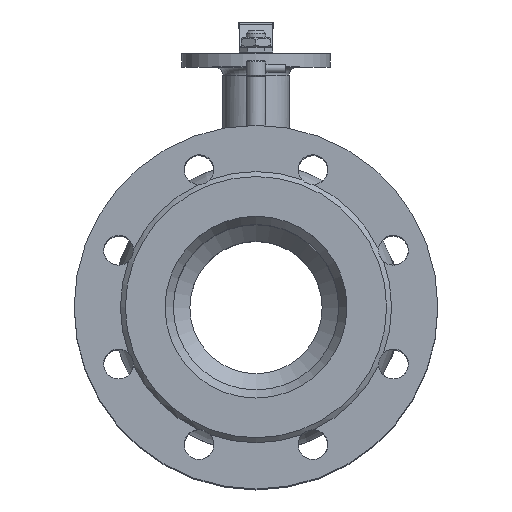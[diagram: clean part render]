
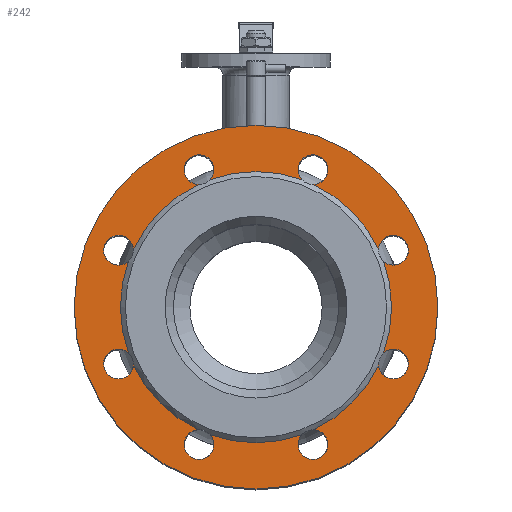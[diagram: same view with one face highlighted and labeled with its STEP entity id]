
A CAD part, top view. The second image highlights one B-rep face of the part: STEP entity #242.
In plain terms, the highlighted planar face has unit normal (0, 0, 1).
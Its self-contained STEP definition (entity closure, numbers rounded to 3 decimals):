
#242=ADVANCED_FACE('',(#2282,#2284),#2286,.F.);
#2282=FACE_BOUND('',#2283,.T.);
#2283=EDGE_LOOP('',(#28970));
#2284=FACE_BOUND('',#2285,.T.);
#2285=EDGE_LOOP('',(#28971,#28972,#28973,#28974,#28975,#28976,#28977,#28978,#28979,
#28980,#28981,#28982,#28983,#28984,#28985,#28986));
#2286=PLANE('',#2287);
#2287=AXIS2_PLACEMENT_3D('',#2288,#2289,#2290);
#2288=CARTESIAN_POINT('',(0.,82.,169.5));
#2289=DIRECTION('',(0.,0.,-1.));
#2290=DIRECTION('',(-1.,0.,0.));
#28970=ORIENTED_EDGE('',*,*,#33954,.T.);
#28971=ORIENTED_EDGE('',*,*,#33955,.F.);
#28972=ORIENTED_EDGE('',*,*,#33885,.F.);
#28973=ORIENTED_EDGE('',*,*,#33956,.F.);
#28974=ORIENTED_EDGE('',*,*,#33883,.F.);
#28975=ORIENTED_EDGE('',*,*,#33957,.F.);
#28976=ORIENTED_EDGE('',*,*,#33881,.F.);
#28977=ORIENTED_EDGE('',*,*,#33958,.F.);
#28978=ORIENTED_EDGE('',*,*,#33879,.F.);
#28979=ORIENTED_EDGE('',*,*,#33959,.F.);
#28980=ORIENTED_EDGE('',*,*,#33877,.F.);
#28981=ORIENTED_EDGE('',*,*,#33960,.F.);
#28982=ORIENTED_EDGE('',*,*,#33875,.F.);
#28983=ORIENTED_EDGE('',*,*,#33961,.F.);
#28984=ORIENTED_EDGE('',*,*,#33873,.F.);
#28985=ORIENTED_EDGE('',*,*,#33962,.F.);
#28986=ORIENTED_EDGE('',*,*,#33871,.F.);
#33871=EDGE_CURVE('',#36144,#36147,#36148,.T.);
#33873=EDGE_CURVE('',#36149,#36151,#36152,.T.);
#33875=EDGE_CURVE('',#36153,#36155,#36156,.T.);
#33877=EDGE_CURVE('',#36157,#36159,#36160,.T.);
#33879=EDGE_CURVE('',#36161,#36163,#36164,.T.);
#33881=EDGE_CURVE('',#36165,#36167,#36168,.T.);
#33883=EDGE_CURVE('',#36169,#36171,#36172,.T.);
#33885=EDGE_CURVE('',#36173,#36145,#36175,.T.);
#33954=EDGE_CURVE('',#36304,#36304,#36305,.T.);
#33955=EDGE_CURVE('',#36145,#36144,#36306,.T.);
#33956=EDGE_CURVE('',#36171,#36173,#36307,.T.);
#33957=EDGE_CURVE('',#36167,#36169,#36308,.T.);
#33958=EDGE_CURVE('',#36163,#36165,#36309,.T.);
#33959=EDGE_CURVE('',#36159,#36161,#36310,.T.);
#33960=EDGE_CURVE('',#36155,#36157,#36311,.T.);
#33961=EDGE_CURVE('',#36151,#36153,#36312,.T.);
#33962=EDGE_CURVE('',#36147,#36149,#36313,.T.);
#36144=VERTEX_POINT('',#52628);
#36145=VERTEX_POINT('',#52629);
#36147=VERTEX_POINT('',#52707);
#36148=CIRCLE('',#52708,82.);
#36149=VERTEX_POINT('',#52712);
#36151=VERTEX_POINT('',#52790);
#36152=CIRCLE('',#52791,82.);
#36153=VERTEX_POINT('',#52795);
#36155=VERTEX_POINT('',#52873);
#36156=CIRCLE('',#52874,82.);
#36157=VERTEX_POINT('',#52878);
#36159=VERTEX_POINT('',#52956);
#36160=CIRCLE('',#52957,82.);
#36161=VERTEX_POINT('',#52961);
#36163=VERTEX_POINT('',#53039);
#36164=CIRCLE('',#53040,82.);
#36165=VERTEX_POINT('',#53044);
#36167=VERTEX_POINT('',#53122);
#36168=CIRCLE('',#53123,82.);
#36169=VERTEX_POINT('',#53127);
#36171=VERTEX_POINT('',#53205);
#36172=CIRCLE('',#53206,82.);
#36173=VERTEX_POINT('',#53210);
#36175=CIRCLE('',#53288,82.);
#36304=VERTEX_POINT('',#54208);
#36305=CIRCLE('',#54209,110.);
#36306=CIRCLE('',#54213,9.);
#36307=CIRCLE('',#54217,9.);
#36308=CIRCLE('',#54221,9.);
#36309=CIRCLE('',#54225,9.);
#36310=CIRCLE('',#54229,9.);
#36311=CIRCLE('',#54233,9.);
#36312=CIRCLE('',#54237,9.);
#36313=CIRCLE('',#54241,9.);
#52628=CARTESIAN_POINT('',(74.165,34.979,169.5));
#52629=CARTESIAN_POINT('',(77.177,27.709,169.5));
#52707=CARTESIAN_POINT('',(34.979,74.165,169.5));
#52708=AXIS2_PLACEMENT_3D('',#52709,#52710,#52711);
#52709=CARTESIAN_POINT('',(0.,0.,169.5));
#52710=DIRECTION('',(0.,0.,1.));
#52711=DIRECTION('',(0.904,0.427,0.));
#52712=CARTESIAN_POINT('',(27.709,77.177,169.5));
#52790=CARTESIAN_POINT('',(-27.709,77.177,169.5));
#52791=AXIS2_PLACEMENT_3D('',#52792,#52793,#52794);
#52792=CARTESIAN_POINT('',(0.,0.,169.5));
#52793=DIRECTION('',(0.,0.,1.));
#52794=DIRECTION('',(0.338,0.941,0.));
#52795=CARTESIAN_POINT('',(-34.979,74.165,169.5));
#52873=CARTESIAN_POINT('',(-74.165,34.979,169.5));
#52874=AXIS2_PLACEMENT_3D('',#52875,#52876,#52877);
#52875=CARTESIAN_POINT('',(0.,0.,169.5));
#52876=DIRECTION('',(0.,0.,1.));
#52877=DIRECTION('',(-0.427,0.904,0.));
#52878=CARTESIAN_POINT('',(-77.177,27.709,169.5));
#52956=CARTESIAN_POINT('',(-77.177,-27.709,169.5));
#52957=AXIS2_PLACEMENT_3D('',#52958,#52959,#52960);
#52958=CARTESIAN_POINT('',(0.,0.,169.5));
#52959=DIRECTION('',(0.,0.,1.));
#52960=DIRECTION('',(-0.941,0.338,0.));
#52961=CARTESIAN_POINT('',(-74.165,-34.979,169.5));
#53039=CARTESIAN_POINT('',(-34.979,-74.165,169.5));
#53040=AXIS2_PLACEMENT_3D('',#53041,#53042,#53043);
#53041=CARTESIAN_POINT('',(0.,0.,169.5));
#53042=DIRECTION('',(0.,0.,1.));
#53043=DIRECTION('',(-0.904,-0.427,0.));
#53044=CARTESIAN_POINT('',(-27.709,-77.177,169.5));
#53122=CARTESIAN_POINT('',(27.709,-77.177,169.5));
#53123=AXIS2_PLACEMENT_3D('',#53124,#53125,#53126);
#53124=CARTESIAN_POINT('',(0.,0.,169.5));
#53125=DIRECTION('',(0.,0.,1.));
#53126=DIRECTION('',(-0.338,-0.941,0.));
#53127=CARTESIAN_POINT('',(34.979,-74.165,169.5));
#53205=CARTESIAN_POINT('',(74.165,-34.979,169.5));
#53206=AXIS2_PLACEMENT_3D('',#53207,#53208,#53209);
#53207=CARTESIAN_POINT('',(0.,0.,169.5));
#53208=DIRECTION('',(0.,0.,1.));
#53209=DIRECTION('',(0.427,-0.904,0.));
#53210=CARTESIAN_POINT('',(77.177,-27.709,169.5));
#53288=AXIS2_PLACEMENT_3D('',#53289,#53290,#53291);
#53289=CARTESIAN_POINT('',(0.,0.,169.5));
#53290=DIRECTION('',(0.,0.,1.));
#53291=DIRECTION('',(0.941,-0.338,0.));
#54208=CARTESIAN_POINT('',(110.,0.,169.5));
#54209=AXIS2_PLACEMENT_3D('',#54210,#54211,#54212);
#54210=CARTESIAN_POINT('',(0.,0.,169.5));
#54211=DIRECTION('',(0.,0.,1.));
#54212=DIRECTION('',(1.,0.,0.));
#54213=AXIS2_PLACEMENT_3D('',#54214,#54215,#54216);
#54214=CARTESIAN_POINT('',(83.149,34.442,169.5));
#54215=DIRECTION('',(0.,0.,1.));
#54216=DIRECTION('',(-0.664,-0.748,0.));
#54217=AXIS2_PLACEMENT_3D('',#54218,#54219,#54220);
#54218=CARTESIAN_POINT('',(83.149,-34.442,169.5));
#54219=DIRECTION('',(0.,0.,1.));
#54220=DIRECTION('',(-0.998,-0.06,0.));
#54221=AXIS2_PLACEMENT_3D('',#54222,#54223,#54224);
#54222=CARTESIAN_POINT('',(34.442,-83.149,169.5));
#54223=DIRECTION('',(0.,0.,1.));
#54224=DIRECTION('',(-0.748,0.664,0.));
#54225=AXIS2_PLACEMENT_3D('',#54226,#54227,#54228);
#54226=CARTESIAN_POINT('',(-34.442,-83.149,169.5));
#54227=DIRECTION('',(0.,0.,1.));
#54228=DIRECTION('',(-0.06,0.998,0.));
#54229=AXIS2_PLACEMENT_3D('',#54230,#54231,#54232);
#54230=CARTESIAN_POINT('',(-83.149,-34.442,169.5));
#54231=DIRECTION('',(0.,0.,1.));
#54232=DIRECTION('',(0.664,0.748,0.));
#54233=AXIS2_PLACEMENT_3D('',#54234,#54235,#54236);
#54234=CARTESIAN_POINT('',(-83.149,34.442,169.5));
#54235=DIRECTION('',(0.,0.,1.));
#54236=DIRECTION('',(0.998,0.06,0.));
#54237=AXIS2_PLACEMENT_3D('',#54238,#54239,#54240);
#54238=CARTESIAN_POINT('',(-34.442,83.149,169.5));
#54239=DIRECTION('',(0.,0.,1.));
#54240=DIRECTION('',(0.748,-0.664,0.));
#54241=AXIS2_PLACEMENT_3D('',#54242,#54243,#54244);
#54242=CARTESIAN_POINT('',(34.442,83.149,169.5));
#54243=DIRECTION('',(0.,0.,1.));
#54244=DIRECTION('',(0.06,-0.998,0.));
